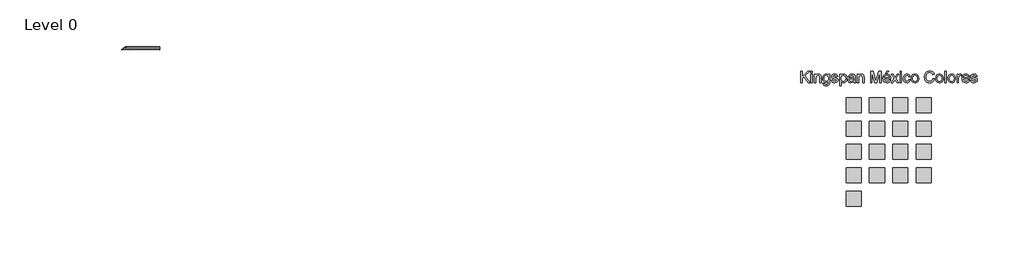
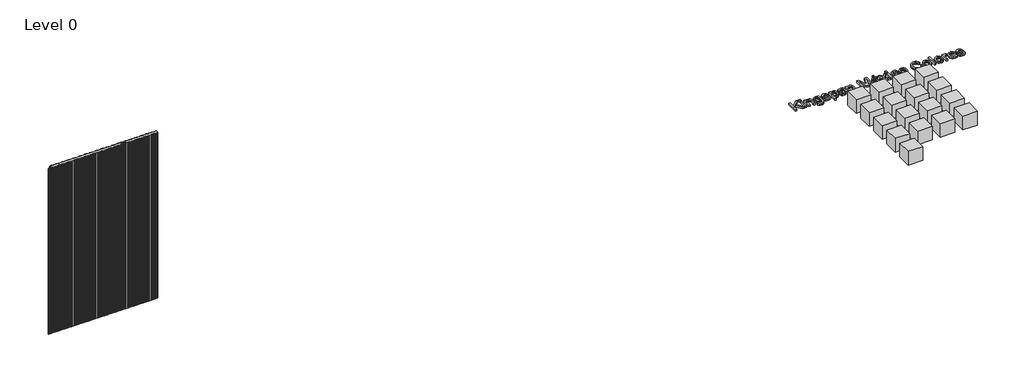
# One storey: 18 proxies, 2 plates.
"""IFC4 building model written with IfcOpenShell, lengths in millimetres."""

from ifc_helpers import new_model, si_unit, origin, place, context, project, spatial, transform, mapped, element, save
from components import generic_models_9fd19f98, ks_colour_sample_ks_colour_sample_0243efec, vt_040mm_0b9b046a, vt_040mm_48560dee

model = new_model("IFC4")

# Units and contexts
model_context = context("Model", 3, world=origin())
ifc_project = project(units=[si_unit("LENGTHUNIT", "METRE", prefix="MILLI")], contexts=[model_context])

# Site, building, storey
site = spatial("IfcSite", under=ifc_project)
building = spatial("IfcBuilding", under=site)
storey = spatial("IfcBuildingStorey", under=building, Name="Level 0", Elevation=0.0)

# Proxies
placement = place(None, origin())
generic_models_shape = generic_models_9fd19f98(model_context)
element("IfcBuildingElementProxy", 1, Name="KIP-MX_ColourRange_Spanish : KIP-MX_ColourRange_Spanish", ObjectType="KIP-MX_ColourRange_Spanish : KIP-MX_ColourRange_Spanish", at=placement, inside=storey, context=model_context, shape_type="MappedRepresentation", body=[
    mapped(generic_models_shape, transform((1966.0629502, 11802.7493823, 0.0), x_axis=(1.0, 0.0, 0.0), y_axis=(0.0, 1.0, 0.0), z_axis=(0.0, 0.0, 1.0))),
])
ks_colour_sample_ks_colour_sample_shape = ks_colour_sample_ks_colour_sample_0243efec(model_context)
element("IfcBuildingElementProxy", 2, Name="KS_Colour Sample : KS_Colour Sample", ObjectType="KS_Colour Sample : KS_Colour Sample", at=placement, inside=storey, context=model_context, shape_type="MappedRepresentation", body=[
    mapped(ks_colour_sample_ks_colour_sample_shape, transform((1501.0629502, 13781.2299273, 0.0), x_axis=(1.0, 0.0, 0.0), y_axis=(0.0, 1.0, 0.0), z_axis=(0.0, 0.0, 1.0))),
])
element("IfcBuildingElementProxy", 3, Name="KS_Colour Sample : KS_Colour Sample", ObjectType="KS_Colour Sample : KS_Colour Sample", at=placement, inside=storey, context=model_context, shape_type="MappedRepresentation", body=[
    mapped(ks_colour_sample_ks_colour_sample_shape, transform((1811.0629502, 13781.2299273, 0.0), x_axis=(1.0, 0.0, 0.0), y_axis=(0.0, 1.0, 0.0), z_axis=(0.0, 0.0, 1.0))),
])
element("IfcBuildingElementProxy", 4, Name="KS_Colour Sample : KS_Colour Sample", ObjectType="KS_Colour Sample : KS_Colour Sample", at=placement, inside=storey, context=model_context, shape_type="MappedRepresentation", body=[
    mapped(ks_colour_sample_ks_colour_sample_shape, transform((2121.0629502, 13781.2299273, 0.0), x_axis=(1.0, 0.0, 0.0), y_axis=(0.0, 1.0, 0.0), z_axis=(0.0, 0.0, 1.0))),
])
element("IfcBuildingElementProxy", 5, Name="KS_Colour Sample : KS_Colour Sample", ObjectType="KS_Colour Sample : KS_Colour Sample", at=placement, inside=storey, context=model_context, shape_type="MappedRepresentation", body=[
    mapped(ks_colour_sample_ks_colour_sample_shape, transform((2431.0629502, 13781.2299273, 0.0), x_axis=(1.0, 0.0, 0.0), y_axis=(0.0, 1.0, 0.0), z_axis=(0.0, 0.0, 1.0))),
])
element("IfcBuildingElementProxy", 6, Name="KS_Colour Sample : KS_Colour Sample", ObjectType="KS_Colour Sample : KS_Colour Sample", at=placement, inside=storey, context=model_context, shape_type="MappedRepresentation", body=[
    mapped(ks_colour_sample_ks_colour_sample_shape, transform((1501.0629502, 13471.2299273, 0.0), x_axis=(1.0, 0.0, 0.0), y_axis=(0.0, 1.0, 0.0), z_axis=(0.0, 0.0, 1.0))),
])
element("IfcBuildingElementProxy", 7, Name="KS_Colour Sample : KS_Colour Sample", ObjectType="KS_Colour Sample : KS_Colour Sample", at=placement, inside=storey, context=model_context, shape_type="MappedRepresentation", body=[
    mapped(ks_colour_sample_ks_colour_sample_shape, transform((1811.0629502, 13471.2299273, 0.0), x_axis=(1.0, 0.0, 0.0), y_axis=(0.0, 1.0, 0.0), z_axis=(0.0, 0.0, 1.0))),
])
element("IfcBuildingElementProxy", 8, Name="KS_Colour Sample : KS_Colour Sample", ObjectType="KS_Colour Sample : KS_Colour Sample", at=placement, inside=storey, context=model_context, shape_type="MappedRepresentation", body=[
    mapped(ks_colour_sample_ks_colour_sample_shape, transform((2121.0629502, 13471.2299273, 0.0), x_axis=(1.0, 0.0, 0.0), y_axis=(0.0, 1.0, 0.0), z_axis=(0.0, 0.0, 1.0))),
])
element("IfcBuildingElementProxy", 9, Name="KS_Colour Sample : KS_Colour Sample", ObjectType="KS_Colour Sample : KS_Colour Sample", at=placement, inside=storey, context=model_context, shape_type="MappedRepresentation", body=[
    mapped(ks_colour_sample_ks_colour_sample_shape, transform((2431.0629502, 13471.2299273, 0.0), x_axis=(1.0, 0.0, 0.0), y_axis=(0.0, 1.0, 0.0), z_axis=(0.0, 0.0, 1.0))),
])
element("IfcBuildingElementProxy", 10, Name="KS_Colour Sample : KS_Colour Sample", ObjectType="KS_Colour Sample : KS_Colour Sample", at=placement, inside=storey, context=model_context, shape_type="MappedRepresentation", body=[
    mapped(ks_colour_sample_ks_colour_sample_shape, transform((1501.0629502, 13161.2299273, 0.0), x_axis=(1.0, 0.0, 0.0), y_axis=(0.0, 1.0, 0.0), z_axis=(0.0, 0.0, 1.0))),
])
element("IfcBuildingElementProxy", 11, Name="KS_Colour Sample : KS_Colour Sample", ObjectType="KS_Colour Sample : KS_Colour Sample", at=placement, inside=storey, context=model_context, shape_type="MappedRepresentation", body=[
    mapped(ks_colour_sample_ks_colour_sample_shape, transform((1811.0629502, 13161.2299273, 0.0), x_axis=(1.0, 0.0, 0.0), y_axis=(0.0, 1.0, 0.0), z_axis=(0.0, 0.0, 1.0))),
])
element("IfcBuildingElementProxy", 12, Name="KS_Colour Sample : KS_Colour Sample", ObjectType="KS_Colour Sample : KS_Colour Sample", at=placement, inside=storey, context=model_context, shape_type="MappedRepresentation", body=[
    mapped(ks_colour_sample_ks_colour_sample_shape, transform((2121.0629502, 13161.2299273, 0.0), x_axis=(1.0, 0.0, 0.0), y_axis=(0.0, 1.0, 0.0), z_axis=(0.0, 0.0, 1.0))),
])
element("IfcBuildingElementProxy", 13, Name="KS_Colour Sample : KS_Colour Sample", ObjectType="KS_Colour Sample : KS_Colour Sample", at=placement, inside=storey, context=model_context, shape_type="MappedRepresentation", body=[
    mapped(ks_colour_sample_ks_colour_sample_shape, transform((2431.0629502, 13161.2299273, 0.0), x_axis=(1.0, 0.0, 0.0), y_axis=(0.0, 1.0, 0.0), z_axis=(0.0, 0.0, 1.0))),
])
element("IfcBuildingElementProxy", 14, Name="KS_Colour Sample : KS_Colour Sample", ObjectType="KS_Colour Sample : KS_Colour Sample", at=placement, inside=storey, context=model_context, shape_type="MappedRepresentation", body=[
    mapped(ks_colour_sample_ks_colour_sample_shape, transform((1501.0629502, 12851.2299273, 0.0), x_axis=(1.0, 0.0, 0.0), y_axis=(0.0, 1.0, 0.0), z_axis=(0.0, 0.0, 1.0))),
])
element("IfcBuildingElementProxy", 15, Name="KS_Colour Sample : KS_Colour Sample", ObjectType="KS_Colour Sample : KS_Colour Sample", at=placement, inside=storey, context=model_context, shape_type="MappedRepresentation", body=[
    mapped(ks_colour_sample_ks_colour_sample_shape, transform((1811.0629502, 12851.2299273, 0.0), x_axis=(1.0, 0.0, 0.0), y_axis=(0.0, 1.0, 0.0), z_axis=(0.0, 0.0, 1.0))),
])
element("IfcBuildingElementProxy", 16, Name="KS_Colour Sample : KS_Colour Sample", ObjectType="KS_Colour Sample : KS_Colour Sample", at=placement, inside=storey, context=model_context, shape_type="MappedRepresentation", body=[
    mapped(ks_colour_sample_ks_colour_sample_shape, transform((2121.0629502, 12851.2299273, 0.0), x_axis=(1.0, 0.0, 0.0), y_axis=(0.0, 1.0, 0.0), z_axis=(0.0, 0.0, 1.0))),
])
element("IfcBuildingElementProxy", 17, Name="KS_Colour Sample : KS_Colour Sample", ObjectType="KS_Colour Sample : KS_Colour Sample", at=placement, inside=storey, context=model_context, shape_type="MappedRepresentation", body=[
    mapped(ks_colour_sample_ks_colour_sample_shape, transform((2431.0629502, 12851.2299273, 0.0), x_axis=(1.0, 0.0, 0.0), y_axis=(0.0, 1.0, 0.0), z_axis=(0.0, 0.0, 1.0))),
])
element("IfcBuildingElementProxy", 18, Name="KS_Colour Sample : KS_Colour Sample", ObjectType="KS_Colour Sample : KS_Colour Sample", at=placement, inside=storey, context=model_context, shape_type="MappedRepresentation", body=[
    mapped(ks_colour_sample_ks_colour_sample_shape, transform((1501.0629502, 12541.2299273, 0.0), x_axis=(1.0, 0.0, 0.0), y_axis=(0.0, 1.0, 0.0), z_axis=(0.0, 0.0, 1.0))),
])

# Plates
vt_040mm_shape = vt_040mm_0b9b046a(model_context)
element("IfcPlate", 19, ObjectType="KIP-MEX-FW-R19-CP-Vt-MR : Vt 040mm", at=placement, inside=storey, context=model_context, shape_type="MappedRepresentation", body=[
    mapped(vt_040mm_shape, transform((-8678.7250934, 14558.8221806, 0.0), x_axis=(1.0, 0.0, 0.0), y_axis=(0.0, 1.0, 0.0), z_axis=(0.0, 0.0, 1.0))),
])
vt_040mm_2_shape = vt_040mm_48560dee(model_context)
element("IfcPlate", 20, ObjectType="KIP-MEX-FW-R19-CP-Vt-MR : Vt 040mm", at=placement, inside=storey, context=model_context, shape_type="MappedRepresentation", body=[
    mapped(vt_040mm_2_shape, transform((-7938.7250934, 14558.8221806, 0.0), x_axis=(1.0, 0.0, 0.0), y_axis=(0.0, 1.0, 0.0), z_axis=(0.0, 0.0, 1.0))),
])

save(model, "model.ifc")
